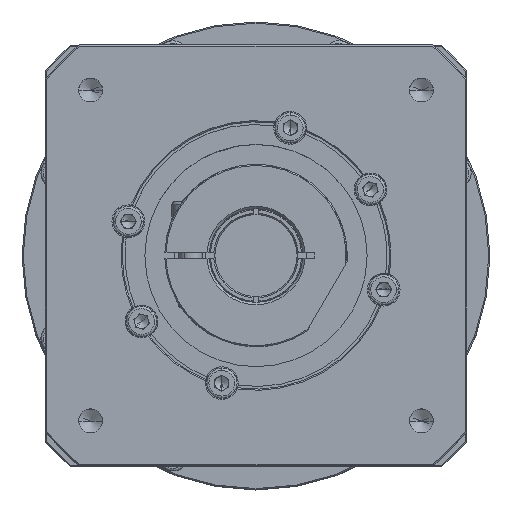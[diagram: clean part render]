
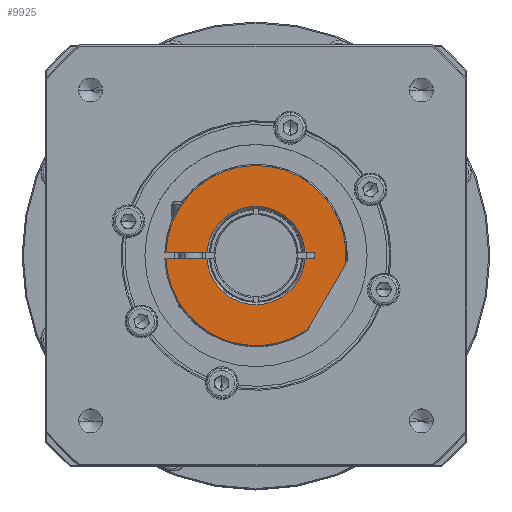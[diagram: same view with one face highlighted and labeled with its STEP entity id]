
A CAD part, top view. The second image highlights one B-rep face of the part: STEP entity #9925.
In plain terms, the highlighted planar face has unit normal (0, 0, 1) as drawn and (1, 0, 0) by its records, which use the part's own axes.
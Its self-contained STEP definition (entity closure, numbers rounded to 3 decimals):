
#193 = ORIENTED_EDGE ( 'NONE', *, *, #1626, .T. ) ;
#354 = DIRECTION ( 'NONE',  ( -1., 0., 0. ) ) ;
#412 = VECTOR ( 'NONE', #14334, 1000. ) ;
#536 = CARTESIAN_POINT ( 'NONE',  ( 10.5, -1.25, -25. ) ) ;
#768 = DIRECTION ( 'NONE',  ( -1., 0., 0. ) ) ;
#828 = DIRECTION ( 'NONE',  ( 0., 0., -1. ) ) ;
#1488 = CARTESIAN_POINT ( 'NONE',  ( 10.5, 1.25, -20.963 ) ) ;
#1626 = EDGE_CURVE ( 'NONE', #9539, #1804, #6886, .T. ) ;
#1804 = VERTEX_POINT ( 'NONE', #15307 ) ;
#1864 = DIRECTION ( 'NONE',  ( 0., 0., -1. ) ) ;
#1905 = LINE ( 'NONE', #3821, #15025 ) ;
#2002 = EDGE_CURVE ( 'NONE', #2423, #6896, #4540, .T. ) ;
#2275 = LINE ( 'NONE', #18705, #412 ) ;
#2423 = VERTEX_POINT ( 'NONE', #13676 ) ;
#2517 = CIRCLE ( 'NONE', #4584, 21. ) ;
#2522 = AXIS2_PLACEMENT_3D ( 'NONE', #12648, #3584, #12385 ) ;
#2669 = CARTESIAN_POINT ( 'NONE',  ( 10.5, -31.39, -22.291 ) ) ;
#3581 = ORIENTED_EDGE ( 'NONE', *, *, #12421, .T. ) ;
#3584 = DIRECTION ( 'NONE',  ( 1., 0., 0. ) ) ;
#3718 = ORIENTED_EDGE ( 'NONE', *, *, #2002, .T. ) ;
#3821 = CARTESIAN_POINT ( 'NONE',  ( 10.5, 0., -25. ) ) ;
#3984 = VERTEX_POINT ( 'NONE', #18890 ) ;
#4277 = CARTESIAN_POINT ( 'NONE',  ( 10.5, -31.39, -22.291 ) ) ;
#4390 = FACE_OUTER_BOUND ( 'NONE', #16893, .T. ) ;
#4436 = EDGE_CURVE ( 'NONE', #6896, #4843, #5163, .T. ) ;
#4540 = CIRCLE ( 'NONE', #9361, 38.5 ) ;
#4541 = CIRCLE ( 'NONE', #2522, 38.5 ) ;
#4584 = AXIS2_PLACEMENT_3D ( 'NONE', #4964, #354, #1864 ) ;
#4771 = EDGE_CURVE ( 'NONE', #1804, #14216, #1905, .T. ) ;
#4794 = VERTEX_POINT ( 'NONE', #16279 ) ;
#4843 = VERTEX_POINT ( 'NONE', #7316 ) ;
#4964 = CARTESIAN_POINT ( 'NONE',  ( 10.5, 0., 0. ) ) ;
#5127 = CARTESIAN_POINT ( 'NONE',  ( 10.5, -1.25, 0. ) ) ;
#5163 = LINE ( 'NONE', #4277, #13909 ) ;
#5309 = DIRECTION ( 'NONE',  ( 0., -1., 0. ) ) ;
#5665 = AXIS2_PLACEMENT_3D ( 'NONE', #18936, #14693, #13170 ) ;
#5710 = EDGE_CURVE ( 'NONE', #4843, #3984, #4541, .T. ) ;
#5942 = AXIS2_PLACEMENT_3D ( 'NONE', #6658, #768, #828 ) ;
#6017 = CARTESIAN_POINT ( 'NONE',  ( 10.5, 1.25, 0. ) ) ;
#6658 = CARTESIAN_POINT ( 'NONE',  ( 10.5, 0., 0. ) ) ;
#6886 = LINE ( 'NONE', #6017, #18136 ) ;
#6896 = VERTEX_POINT ( 'NONE', #2669 ) ;
#7316 = CARTESIAN_POINT ( 'NONE',  ( 10.5, -3.61, -38.33 ) ) ;
#7545 = ORIENTED_EDGE ( 'NONE', *, *, #9272, .T. ) ;
#7757 = VERTEX_POINT ( 'NONE', #7916 ) ;
#7769 = ORIENTED_EDGE ( 'NONE', *, *, #5710, .T. ) ;
#7916 = CARTESIAN_POINT ( 'NONE',  ( 10.5, -1.25, 20.963 ) ) ;
#8359 = DIRECTION ( 'NONE',  ( 0., 0., 1. ) ) ;
#8978 = DIRECTION ( 'NONE',  ( 0., 0., -1. ) ) ;
#9113 = VERTEX_POINT ( 'NONE', #9771 ) ;
#9272 = EDGE_CURVE ( 'NONE', #4794, #7757, #16607, .T. ) ;
#9361 = AXIS2_PLACEMENT_3D ( 'NONE', #9841, #14279, #18521 ) ;
#9539 = VERTEX_POINT ( 'NONE', #1488 ) ;
#9771 = CARTESIAN_POINT ( 'NONE',  ( 10.5, 1.25, 20.963 ) ) ;
#9814 = ORIENTED_EDGE ( 'NONE', *, *, #4436, .T. ) ;
#9841 = CARTESIAN_POINT ( 'NONE',  ( 10.5, 0., 0. ) ) ;
#9925 = ADVANCED_FACE ( 'NONE', ( #4390 ), #11649, .T. ) ;
#11463 = LINE ( 'NONE', #5127, #15858 ) ;
#11471 = EDGE_CURVE ( 'NONE', #7757, #2423, #11463, .T. ) ;
#11567 = ORIENTED_EDGE ( 'NONE', *, *, #11708, .T. ) ;
#11649 = PLANE ( 'NONE',  #5665 ) ;
#11708 = EDGE_CURVE ( 'NONE', #9113, #9539, #2517, .T. ) ;
#12385 = DIRECTION ( 'NONE',  ( 0., 0., 1. ) ) ;
#12421 = EDGE_CURVE ( 'NONE', #14216, #4794, #16988, .T. ) ;
#12494 = ORIENTED_EDGE ( 'NONE', *, *, #4771, .T. ) ;
#12648 = CARTESIAN_POINT ( 'NONE',  ( 10.5, 0., 0. ) ) ;
#13170 = DIRECTION ( 'NONE',  ( 0., 0., -1. ) ) ;
#13676 = CARTESIAN_POINT ( 'NONE',  ( 10.5, -1.25, 38.48 ) ) ;
#13909 = VECTOR ( 'NONE', #14497, 1000. ) ;
#14216 = VERTEX_POINT ( 'NONE', #536 ) ;
#14279 = DIRECTION ( 'NONE',  ( 1., 0., 0. ) ) ;
#14334 = DIRECTION ( 'NONE',  ( 0., 0., -1. ) ) ;
#14429 = ORIENTED_EDGE ( 'NONE', *, *, #11471, .T. ) ;
#14497 = DIRECTION ( 'NONE',  ( 0., 0.866, -0.5 ) ) ;
#14693 = DIRECTION ( 'NONE',  ( 1., 0., 0. ) ) ;
#15025 = VECTOR ( 'NONE', #5309, 1000. ) ;
#15301 = DIRECTION ( 'NONE',  ( 0., 0., 1. ) ) ;
#15307 = CARTESIAN_POINT ( 'NONE',  ( 10.5, 1.25, -25. ) ) ;
#15767 = CARTESIAN_POINT ( 'NONE',  ( 10.5, -1.25, 0. ) ) ;
#15858 = VECTOR ( 'NONE', #8359, 1000. ) ;
#16240 = ORIENTED_EDGE ( 'NONE', *, *, #18862, .T. ) ;
#16279 = CARTESIAN_POINT ( 'NONE',  ( 10.5, -1.25, -20.963 ) ) ;
#16302 = VECTOR ( 'NONE', #15301, 1000. ) ;
#16607 = CIRCLE ( 'NONE', #5942, 21. ) ;
#16893 = EDGE_LOOP ( 'NONE', ( #3581, #7545, #14429, #3718, #9814, #7769, #16240, #11567, #193, #12494 ) ) ;
#16988 = LINE ( 'NONE', #15767, #16302 ) ;
#18136 = VECTOR ( 'NONE', #8978, 1000. ) ;
#18521 = DIRECTION ( 'NONE',  ( 0., 0., 1. ) ) ;
#18705 = CARTESIAN_POINT ( 'NONE',  ( 10.5, 1.25, 0. ) ) ;
#18862 = EDGE_CURVE ( 'NONE', #3984, #9113, #2275, .T. ) ;
#18890 = CARTESIAN_POINT ( 'NONE',  ( 10.5, 1.25, 38.48 ) ) ;
#18936 = CARTESIAN_POINT ( 'NONE',  ( 10.5, 0., 0. ) ) ;
